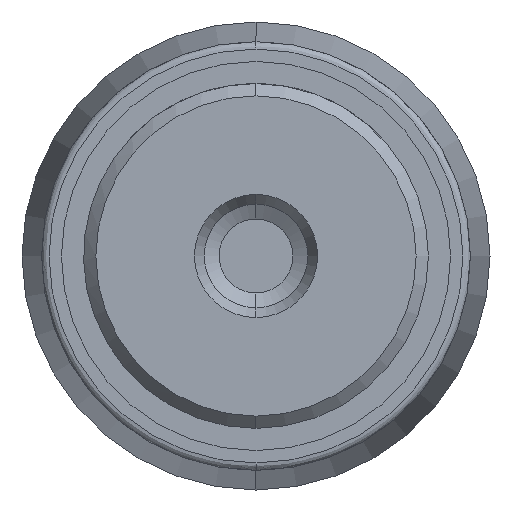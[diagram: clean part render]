
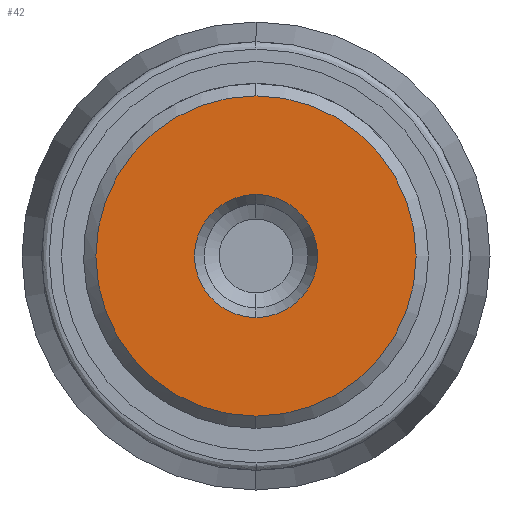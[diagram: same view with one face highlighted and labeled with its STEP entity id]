
A CAD part, left-side view. The second image highlights one B-rep face of the part: STEP entity #42.
In plain terms, the highlighted planar face has unit normal (-1, 0, 0).
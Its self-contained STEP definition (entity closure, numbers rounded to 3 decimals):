
#42=ADVANCED_FACE('',(#109,#110),#108,.F.);
#108=PLANE('',#578);
#109=FACE_OUTER_BOUND('',#579,.T.);
#110=FACE_BOUND('',#580,.T.);
#575=CARTESIAN_POINT('',(-23.5,-13.51,8.45));
#576=DIRECTION('',(1.,0.,0.));
#577=DIRECTION('',(0.,0.,-1.));
#578=AXIS2_PLACEMENT_3D('',#575,#576,#577);
#579=EDGE_LOOP('',(#1041,#1042));
#580=EDGE_LOOP('',(#1043,#1044));
#1041=ORIENTED_EDGE('',*,*,#1247,.T.);
#1042=ORIENTED_EDGE('',*,*,#1248,.T.);
#1043=ORIENTED_EDGE('',*,*,#1249,.F.);
#1044=ORIENTED_EDGE('',*,*,#1250,.F.);
#1247=EDGE_CURVE('',#1392,#1393,#1394,.T.);
#1248=EDGE_CURVE('',#1393,#1392,#1400,.T.);
#1249=EDGE_CURVE('',#1406,#1407,#1408,.T.);
#1250=EDGE_CURVE('',#1407,#1406,#1414,.T.);
#1392=VERTEX_POINT('',#2059);
#1393=VERTEX_POINT('',#2060);
#1394=CIRCLE('',#2064,6.5);
#1400=CIRCLE('',#2068,6.5);
#1406=VERTEX_POINT('',#2069);
#1407=VERTEX_POINT('',#2070);
#1408=CIRCLE('',#2074,2.5);
#1414=CIRCLE('',#2078,2.5);
#2059=CARTESIAN_POINT('',(-23.5,0.,6.5));
#2060=CARTESIAN_POINT('',(-23.5,0.,-6.5));
#2061=CARTESIAN_POINT('',(-23.5,0.,0.));
#2062=DIRECTION('',(-1.,0.,0.));
#2063=DIRECTION('',(0.,0.,1.));
#2064=AXIS2_PLACEMENT_3D('',#2061,#2062,#2063);
#2065=CARTESIAN_POINT('',(-23.5,0.,0.));
#2066=DIRECTION('',(-1.,0.,0.));
#2067=DIRECTION('',(0.,0.,1.));
#2068=AXIS2_PLACEMENT_3D('',#2065,#2066,#2067);
#2069=CARTESIAN_POINT('',(-23.5,0.,-2.5));
#2070=CARTESIAN_POINT('',(-23.5,0.,2.5));
#2071=CARTESIAN_POINT('',(-23.5,0.,0.));
#2072=DIRECTION('',(-1.,0.,0.));
#2073=DIRECTION('',(0.,0.,1.));
#2074=AXIS2_PLACEMENT_3D('',#2071,#2072,#2073);
#2075=CARTESIAN_POINT('',(-23.5,0.,0.));
#2076=DIRECTION('',(-1.,0.,0.));
#2077=DIRECTION('',(0.,0.,1.));
#2078=AXIS2_PLACEMENT_3D('',#2075,#2076,#2077);
